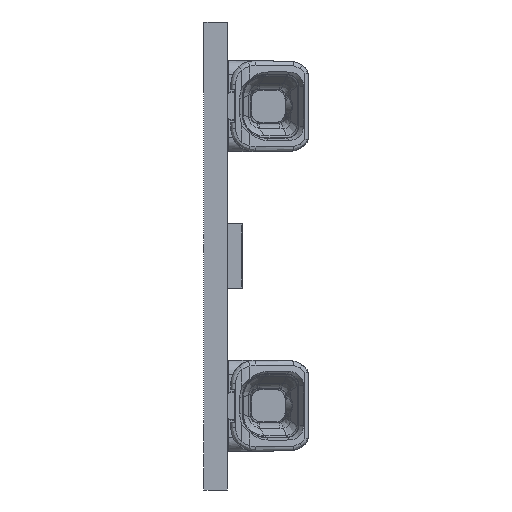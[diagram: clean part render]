
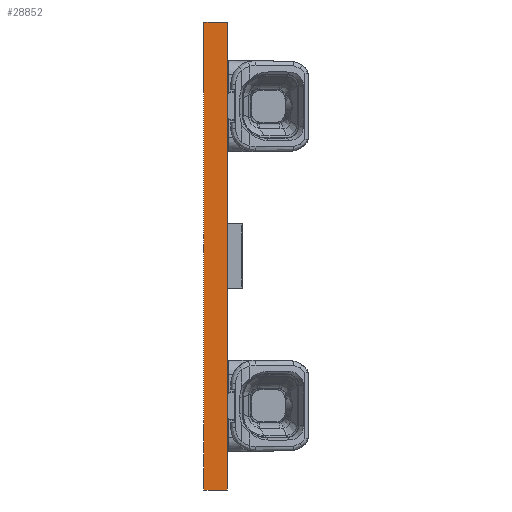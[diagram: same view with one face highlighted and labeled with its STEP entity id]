
A CAD part, left-side view. The second image highlights one B-rep face of the part: STEP entity #28852.
In plain terms, the highlighted planar face has unit normal (-1, 0, 0).
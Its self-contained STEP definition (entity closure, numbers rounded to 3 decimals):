
#1280=LINE('',#38457,#3052);
#2657=LINE('',#49553,#4429);
#2700=LINE('',#49638,#4472);
#2701=LINE('',#49640,#4473);
#3052=VECTOR('',#31265,1000.);
#4429=VECTOR('',#34862,1000.);
#4472=VECTOR('',#34989,1000.);
#4473=VECTOR('',#34992,1000.);
#5072=PLANE('',#30311);
#11082=ORIENTED_EDGE('',*,*,#11744,.F.);
#11083=ORIENTED_EDGE('',*,*,#14097,.F.);
#11084=ORIENTED_EDGE('',*,*,#14053,.T.);
#11085=ORIENTED_EDGE('',*,*,#14096,.T.);
#11744=EDGE_CURVE('',#14525,#14526,#1280,.T.);
#14053=EDGE_CURVE('',#15943,#15985,#2657,.T.);
#14096=EDGE_CURVE('',#15985,#14526,#2700,.T.);
#14097=EDGE_CURVE('',#15943,#14525,#2701,.T.);
#14525=VERTEX_POINT('',#38456);
#14526=VERTEX_POINT('',#38458);
#15943=VERTEX_POINT('',#49468);
#15985=VERTEX_POINT('',#49552);
#17990=EDGE_LOOP('',(#11082,#11083,#11084,#11085));
#19240=FACE_BOUND('',#17990,.T.);
#28852=ADVANCED_FACE('',(#19240),#5072,.T.);
#30311=AXIS2_PLACEMENT_3D('',#49639,#34990,#34991);
#31265=DIRECTION('',(0.,0.,-1.));
#34862=DIRECTION('',(0.,0.,-1.));
#34989=DIRECTION('',(0.,-1.,0.));
#34990=DIRECTION('',(-1.,0.,0.));
#34991=DIRECTION('',(0.,0.,1.));
#34992=DIRECTION('',(0.,-1.,0.));
#38456=CARTESIAN_POINT('',(-140.,0.,10.));
#38457=CARTESIAN_POINT('',(-140.,0.,10.));
#38458=CARTESIAN_POINT('',(-140.,0.,-10.));
#49468=CARTESIAN_POINT('',(-140.,1.,10.));
#49552=CARTESIAN_POINT('',(-140.,1.,-10.));
#49553=CARTESIAN_POINT('',(-140.,1.,10.));
#49638=CARTESIAN_POINT('',(-140.,1.,-10.));
#49639=CARTESIAN_POINT('',(-140.,1.,10.));
#49640=CARTESIAN_POINT('',(-140.,1.,10.));
